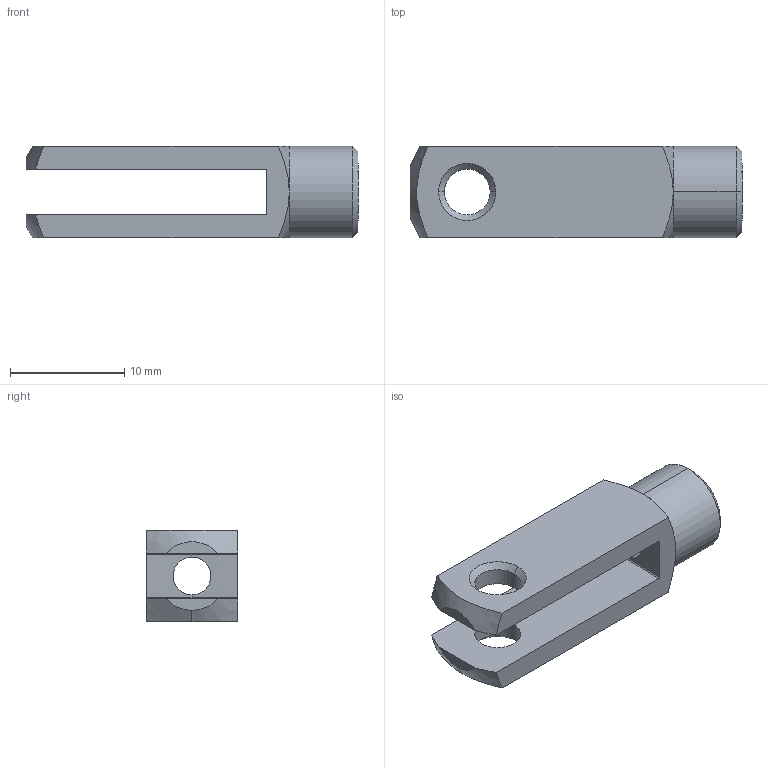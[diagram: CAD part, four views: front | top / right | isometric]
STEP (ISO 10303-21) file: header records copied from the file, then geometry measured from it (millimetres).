
FILE_DESCRIPTION (( 'STEP AP214' ), '1' );
FILE_NAME ('11.G416.STEP', '2017-10-30T08:28:41', ( '' ), ( '' ), 'SwSTEP 2.0', 'SolidWorks 2016', '' );
FILE_SCHEMA (( 'AUTOMOTIVE_DESIGN' ));
Length unit declared in the file: millimetre
Products named in the file (1): 11.G416
Bounding box: 29 x 8 x 8 mm (x, y, z)
Volume: 951.6 mm3; surface area: 1197.7 mm2
Topology: 1 solids, 1 shells, 37 faces, 91 edges, 55 vertices
Faces by surface type: cone 15, cylinder 10, plane 9, torus 3
Entity records: 1283 total; most frequent: CARTESIAN_POINT 387, ORIENTED_EDGE 182, DIRECTION 177, EDGE_CURVE 91, AXIS2_PLACEMENT_3D 73, VERTEX_POINT 55, EDGE_LOOP 42, FACE_OUTER_BOUND 37
